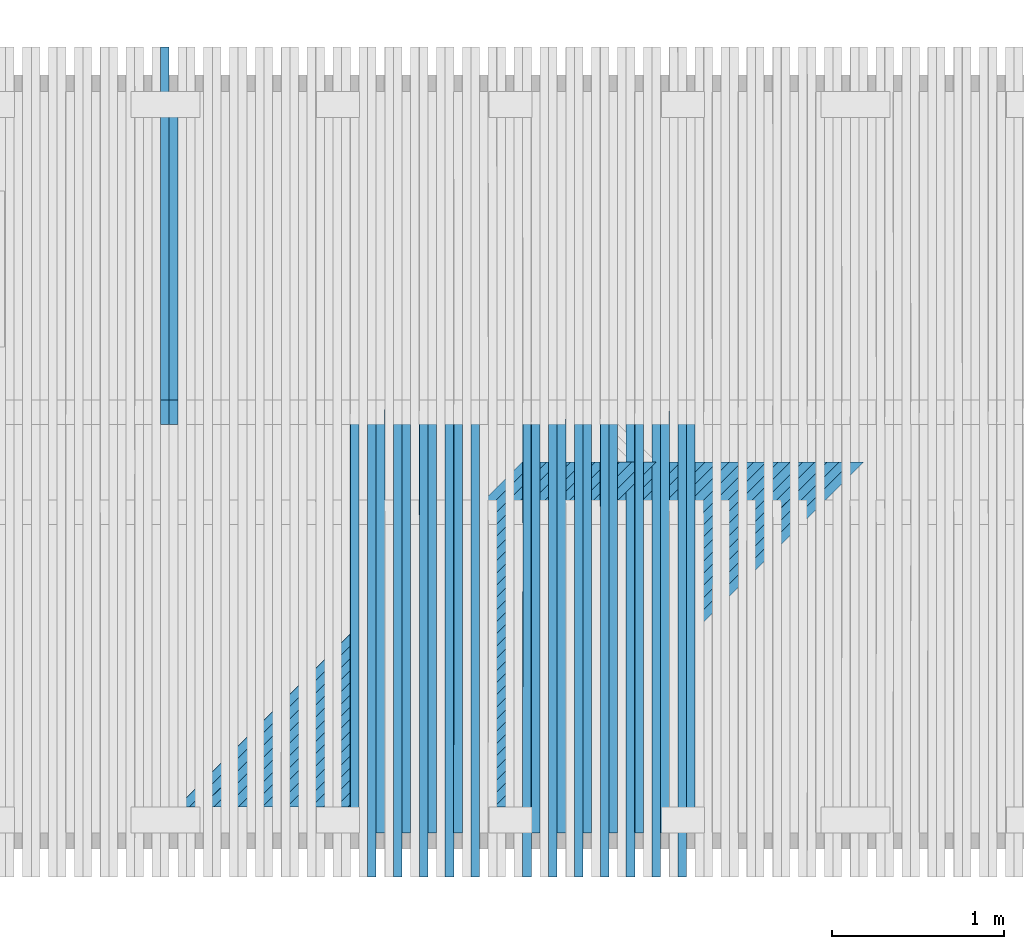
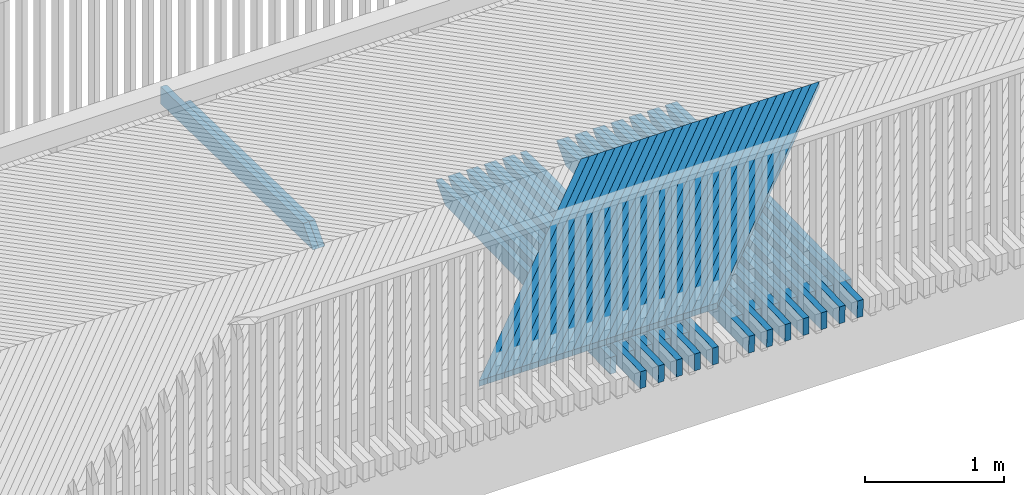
# One storey, part 31 of 47: 54 beams.
"""IFC2X3 building model written with IfcOpenShell, lengths in millimetres."""

from ifc_helpers import new_model, si_unit, frame, origin_with_axes, place, context, subcontext, project, spatial, faceted_brep, material, type_object, element, save


model = new_model("IFC2X3")

# Units and contexts
model_context = context("Model", 3, precision=1e-05, world=origin_with_axes())
body_context = subcontext(model_context, "Body", "Model", "MODEL_VIEW")
ifc_project = project(units=[si_unit("LENGTHUNIT", "METRE", prefix="MILLI"), si_unit("AREAUNIT", "SQUARE_METRE"), si_unit("VOLUMEUNIT", "CUBIC_METRE"), si_unit("MASSUNIT", "GRAM", prefix="KILO"), si_unit("TIMEUNIT", "SECOND"), si_unit("PLANEANGLEUNIT", "RADIAN"), si_unit("SOLIDANGLEUNIT", "STERADIAN"), si_unit("THERMODYNAMICTEMPERATUREUNIT", "DEGREE_CELSIUS"), si_unit("LUMINOUSINTENSITYUNIT", "LUMEN")], contexts=[model_context])

# Site, building, storey
site_placement = place(None, origin_with_axes())
site = spatial("IfcSite", under=ifc_project, at=site_placement, Name="Undefined", CompositionType="ELEMENT")
building_placement = place(site_placement, origin_with_axes())
building = spatial("IfcBuilding", under=site, at=building_placement, Name="Undefined", CompositionType="ELEMENT")
storey_placement = place(building_placement, origin_with_axes())
storey = spatial("IfcBuildingStorey", under=building, at=storey_placement, Name="Undefined", CompositionType="ELEMENT", Elevation=0.0)

# Beams
ifc_material = material(Name="TIMBER/Timber_Undefined")
beam_type_1 = type_object("IfcBeamType", Name="150*50", PredefinedType="NOTDEFINED")
beam_1_placement = place(storey_placement, frame((12050.5466206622, 60216.5046076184, 3079.51987287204), z_axis=(0.00672964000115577, -0.019996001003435, 0.99977741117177), x_axis=(0.000134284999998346, 0.999800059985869, 0.0199955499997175)))
element("IfcBeam", 1, at=beam_1_placement, inside=storey, type_object=beam_type_1, material=ifc_material, Name="BEAM", ObjectType="150*50", context=body_context, shape_type="Brep", body=[
    faceted_brep([(6.18456397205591e-09, -24.9999999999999, -75.0000000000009), (-6.1918399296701e-09, -24.9999999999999, 74.9999999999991), (-6.19911588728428e-09, 25.0, 75.0), (6.18456397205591e-09, 24.9999999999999, -75.0), (2375.00494220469, 24.9999999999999, -75.0000000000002), (2375.00494218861, -25.0, -75.0), (2510.59248711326, -25.0, 60.5875455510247), (2150.42518973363, -25.0, 75.0000000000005), (2150.42518840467, 25.0, 74.9999999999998), (2510.59248707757, 25.0, 60.5875454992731)], [[[0, 1, 2, 3]], [[0, 3, 4, 5]], [[1, 0, 5, 6, 7]], [[2, 1, 7, 8]], [[4, 3, 2, 8, 9]], [[5, 4, 9, 6]], [[8, 7, 6, 9]]]),
])
beam_2_placement = place(storey_placement, frame((12000.608483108, 59958.5561921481, 3074.69475377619), z_axis=(0.00664728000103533, -0.0199960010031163, 0.999777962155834), x_axis=(0.000132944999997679, 0.999800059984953, 0.019995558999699)))
element("IfcBeam", 2, at=beam_2_placement, inside=storey, type_object=beam_type_1, material=ifc_material, Name="BEAM", ObjectType="150*50", context=body_context, shape_type="Brep", body=[
    faceted_brep([(6.18456397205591e-09, -24.9999999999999, -75.0000000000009), (-6.1918399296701e-09, -24.9999999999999, 74.9999999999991), (-6.19911588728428e-09, 25.0, 75.0), (6.18456397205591e-09, 24.9999999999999, -75.0), (2633.00494983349, 25.0000000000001, -75.0000000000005), (2633.00495050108, -24.9999999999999, -75.0000000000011), (2768.59248707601, -25.0, 60.5875366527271), (2408.42499905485, -25.0, 74.9999999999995), (2408.42501428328, 25.0000000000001, 74.9999999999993), (2768.5924870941, 25.0, 60.5875375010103)], [[[0, 1, 2, 3]], [[0, 3, 4, 5]], [[1, 0, 5, 6, 7]], [[2, 1, 7, 8]], [[4, 3, 2, 8, 9]], [[5, 4, 9, 6]], [[8, 7, 6, 9]]]),
])
beam_3_placement = place(storey_placement, frame((11900.5198427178, 60216.5046076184, 3080.51070701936), z_axis=(0.00648046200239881, -0.0199960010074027, 0.999779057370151), x_axis=(0.000129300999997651, 0.999800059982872, 0.0199955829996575)))
element("IfcBeam", 3, at=beam_3_placement, inside=storey, type_object=beam_type_1, material=ifc_material, Name="BEAM", ObjectType="150*50", context=body_context, shape_type="Brep", body=[
    faceted_brep([(6.18456397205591e-09, -24.9999999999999, -75.0000000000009), (-6.1918399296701e-09, -24.9999999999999, 74.9999999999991), (-6.19911588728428e-09, 25.0, 75.0), (6.18456397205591e-09, 24.9999999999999, -75.0), (2375.00494220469, 24.9999999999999, -75.0000000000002), (2375.00494218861, -25.0, -75.0), (2510.59248711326, -25.0, 60.5875455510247), (2150.42518973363, -25.0, 75.0000000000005), (2150.42518840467, 25.0, 74.9999999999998), (2510.59248707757, 25.0, 60.5875454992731)], [[[0, 1, 2, 3]], [[0, 3, 4, 5]], [[1, 0, 5, 6, 7]], [[2, 1, 7, 8]], [[4, 3, 2, 8, 9]], [[5, 4, 9, 6]], [[8, 7, 6, 9]]]),
])
beam_4_placement = place(storey_placement, frame((11850.5829092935, 59958.5561921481, 3075.67314184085), z_axis=(0.00639810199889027, -0.0199960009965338, 0.999779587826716), x_axis=(0.000127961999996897, 0.999800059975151, 0.019995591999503)))
element("IfcBeam", 4, at=beam_4_placement, inside=storey, type_object=beam_type_1, material=ifc_material, Name="BEAM", ObjectType="150*50", context=body_context, shape_type="Brep", body=[
    faceted_brep([(6.18456397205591e-09, -24.9999999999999, -75.0000000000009), (-6.1918399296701e-09, -24.9999999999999, 74.9999999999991), (-6.19911588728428e-09, 25.0, 75.0), (6.18456397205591e-09, 24.9999999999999, -75.0), (2633.00494983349, 25.0000000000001, -75.0000000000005), (2633.00495050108, -24.9999999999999, -75.0000000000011), (2768.59248707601, -25.0, 60.5875366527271), (2408.42499905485, -25.0, 74.9999999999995), (2408.42501428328, 25.0000000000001, 74.9999999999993), (2768.5924870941, 25.0, 60.5875375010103)], [[[0, 1, 2, 3]], [[0, 3, 4, 5]], [[1, 0, 5, 6, 7]], [[2, 1, 7, 8]], [[4, 3, 2, 8, 9]], [[5, 4, 9, 6]], [[8, 7, 6, 9]]]),
])
beam_5_placement = place(storey_placement, frame((11750.4928224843, 60216.5046076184, 3081.46414950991), z_axis=(0.00623128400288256, -0.0199960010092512, 0.999780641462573), x_axis=(0.000124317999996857, 0.999800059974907, 0.0199956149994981)))
element("IfcBeam", 5, at=beam_5_placement, inside=storey, type_object=beam_type_1, material=ifc_material, Name="BEAM", ObjectType="150*50", context=body_context, shape_type="Brep", body=[
    faceted_brep([(6.18456397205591e-09, -24.9999999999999, -75.0000000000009), (-6.1918399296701e-09, -24.9999999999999, 74.9999999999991), (-6.19911588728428e-09, 25.0, 75.0), (6.18456397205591e-09, 24.9999999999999, -75.0), (2375.00494220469, 24.9999999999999, -75.0000000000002), (2375.00494218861, -25.0, -75.0), (2510.59248711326, -25.0, 60.5875455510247), (2150.42518973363, -25.0, 75.0000000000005), (2150.42518840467, 25.0, 74.9999999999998), (2510.59248707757, 25.0, 60.5875454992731)], [[[0, 1, 2, 3]], [[0, 3, 4, 5]], [[1, 0, 5, 6, 7]], [[2, 1, 7, 8]], [[4, 3, 2, 8, 9]], [[5, 4, 9, 6]], [[8, 7, 6, 9]]]),
])
beam_6_placement = place(storey_placement, frame((11700.557096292, 59958.5561921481, 3076.61413854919), z_axis=(0.00614892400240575, -0.0199960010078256, 0.999781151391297), x_axis=(0.00012297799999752, 0.999800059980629, 0.0199956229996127)))
element("IfcBeam", 6, at=beam_6_placement, inside=storey, type_object=beam_type_1, material=ifc_material, Name="BEAM", ObjectType="150*50", context=body_context, shape_type="Brep", body=[
    faceted_brep([(6.18456397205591e-09, -24.9999999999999, -75.0000000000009), (-6.1918399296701e-09, -24.9999999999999, 74.9999999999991), (-6.19911588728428e-09, 25.0, 75.0), (6.18456397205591e-09, 24.9999999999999, -75.0), (2633.00494983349, 25.0000000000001, -75.0000000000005), (2633.00495050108, -24.9999999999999, -75.0000000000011), (2768.59248707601, -25.0, 60.5875366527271), (2408.42499905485, -25.0, 74.9999999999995), (2408.42501428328, 25.0000000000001, 74.9999999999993), (2768.5924870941, 25.0, 60.5875375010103)], [[[0, 1, 2, 3]], [[0, 3, 4, 5]], [[1, 0, 5, 6, 7]], [[2, 1, 7, 8]], [[4, 3, 2, 8, 9]], [[5, 4, 9, 6]], [[8, 7, 6, 9]]]),
])
beam_7_placement = place(storey_placement, frame((11600.4655692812, 60216.5046076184, 3082.38020028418), z_axis=(0.005982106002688, -0.0199960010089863, 0.999782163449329), x_axis=(0.000119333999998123, 0.999800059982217, 0.0199956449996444)))
element("IfcBeam", 7, at=beam_7_placement, inside=storey, type_object=beam_type_1, material=ifc_material, Name="BEAM", ObjectType="150*50", context=body_context, shape_type="Brep", body=[
    faceted_brep([(6.18456397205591e-09, -24.9999999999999, -75.0000000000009), (-6.1918399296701e-09, -24.9999999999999, 74.9999999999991), (-6.19911588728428e-09, 25.0, 75.0), (6.18456397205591e-09, 24.9999999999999, -75.0), (2375.00494220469, 24.9999999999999, -75.0000000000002), (2375.00494218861, -25.0, -75.0), (2510.59248711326, -25.0, 60.5875455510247), (2150.42518973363, -25.0, 75.0000000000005), (2150.42518840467, 25.0, 74.9999999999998), (2510.59248707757, 25.0, 60.5875454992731)], [[[0, 1, 2, 3]], [[0, 3, 4, 5]], [[1, 0, 5, 6, 7]], [[2, 1, 7, 8]], [[4, 3, 2, 8, 9]], [[5, 4, 9, 6]], [[8, 7, 6, 9]]]),
])
beam_8_placement = place(storey_placement, frame((11550.5310534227, 59958.5561921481, 3077.51774384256), z_axis=(0.00589974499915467, -0.0199960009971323, 0.999782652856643), x_axis=(0.000117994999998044, 0.999800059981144, 0.0199956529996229)))
element("IfcBeam", 8, at=beam_8_placement, inside=storey, type_object=beam_type_1, material=ifc_material, Name="BEAM", ObjectType="150*50", context=body_context, shape_type="Brep", body=[
    faceted_brep([(6.18456397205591e-09, -24.9999999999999, -75.0000000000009), (-6.1918399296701e-09, -24.9999999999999, 74.9999999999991), (-6.19911588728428e-09, 25.0, 75.0), (6.18456397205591e-09, 24.9999999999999, -75.0), (2633.00494983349, 25.0000000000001, -75.0000000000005), (2633.00495050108, -24.9999999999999, -75.0000000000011), (2768.59248707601, -25.0, 60.5875366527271), (2408.42499905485, -25.0, 74.9999999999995), (2408.42501428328, 25.0000000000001, 74.9999999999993), (2768.5924870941, 25.0, 60.5875375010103)], [[[0, 1, 2, 3]], [[0, 3, 4, 5]], [[1, 0, 5, 6, 7]], [[2, 1, 7, 8]], [[4, 3, 2, 8, 9]], [[5, 4, 9, 6]], [[8, 7, 6, 9]]]),
])
beam_9_placement = place(storey_placement, frame((11450.4380924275, 60216.5046076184, 3083.25885928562), z_axis=(0.00573292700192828, -0.0199960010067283, 0.999783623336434), x_axis=(0.000114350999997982, 0.999800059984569, 0.0199956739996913)))
element("IfcBeam", 9, at=beam_9_placement, inside=storey, type_object=beam_type_1, material=ifc_material, Name="BEAM", ObjectType="150*50", context=body_context, shape_type="Brep", body=[
    faceted_brep([(6.18456397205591e-09, -24.9999999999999, -75.0000000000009), (-6.1918399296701e-09, -24.9999999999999, 74.9999999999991), (-6.19911588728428e-09, 25.0, 75.0), (6.18456397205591e-09, 24.9999999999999, -75.0), (2375.00494220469, 24.9999999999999, -75.0000000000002), (2375.00494218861, -25.0, -75.0), (2510.59248711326, -25.0, 60.5875455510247), (2150.42518973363, -25.0, 75.0000000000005), (2150.42518840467, 25.0, 74.9999999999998), (2510.59248707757, 25.0, 60.5875454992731)], [[[0, 1, 2, 3]], [[0, 3, 4, 5]], [[1, 0, 5, 6, 7]], [[2, 1, 7, 8]], [[4, 3, 2, 8, 9]], [[5, 4, 9, 6]], [[8, 7, 6, 9]]]),
])
beam_10_placement = place(storey_placement, frame((11400.5047900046, 59958.5561921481, 3078.38395766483), z_axis=(0.00565056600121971, -0.0199960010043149, 0.999784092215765), x_axis=(0.00011301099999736, 0.999800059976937, 0.0199956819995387)))
element("IfcBeam", 10, at=beam_10_placement, inside=storey, type_object=beam_type_1, material=ifc_material, Name="BEAM", ObjectType="150*50", context=body_context, shape_type="Brep", body=[
    faceted_brep([(6.18456397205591e-09, -24.9999999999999, -75.0000000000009), (-6.1918399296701e-09, -24.9999999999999, 74.9999999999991), (-6.19911588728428e-09, 25.0, 75.0), (6.18456397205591e-09, 24.9999999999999, -75.0), (2633.00494983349, 25.0000000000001, -75.0000000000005), (2633.00495050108, -24.9999999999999, -75.0000000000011), (2768.59248707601, -25.0, 60.5875366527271), (2408.42499905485, -25.0, 74.9999999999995), (2408.42501428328, 25.0000000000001, 74.9999999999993), (2768.5924870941, 25.0, 60.5875375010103)], [[[0, 1, 2, 3]], [[0, 3, 4, 5]], [[1, 0, 5, 6, 7]], [[2, 1, 7, 8]], [[4, 3, 2, 8, 9]], [[5, 4, 9, 6]], [[8, 7, 6, 9]]]),
])
beam_11_placement = place(storey_placement, frame((11300.4104012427, 60216.5046076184, 3084.10012645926), z_axis=(0.00548374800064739, -0.0199960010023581, 0.99978502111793), x_axis=(0.000109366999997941, 0.999800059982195, 0.019995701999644)))
element("IfcBeam", 11, at=beam_11_placement, inside=storey, type_object=beam_type_1, material=ifc_material, Name="BEAM", ObjectType="150*50", context=body_context, shape_type="Brep", body=[
    faceted_brep([(6.18456397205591e-09, -24.9999999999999, -75.0000000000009), (-6.1918399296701e-09, -24.9999999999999, 74.9999999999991), (-6.19911588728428e-09, 25.0, 75.0), (6.18456397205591e-09, 24.9999999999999, -75.0), (2375.00494220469, 24.9999999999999, -75.0000000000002), (2375.00494218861, -25.0, -75.0), (2510.59248711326, -25.0, 60.5875455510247), (2150.42518973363, -25.0, 75.0000000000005), (2150.42518840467, 25.0, 74.9999999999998), (2510.59248707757, 25.0, 60.5875454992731)], [[[0, 1, 2, 3]], [[0, 3, 4, 5]], [[1, 0, 5, 6, 7]], [[2, 1, 7, 8]], [[4, 3, 2, 8, 9]], [[5, 4, 9, 6]], [[8, 7, 6, 9]]]),
])
beam_12_placement = place(storey_placement, frame((11250.4783153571, 59958.5561921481, 3079.21277996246), z_axis=(0.00540138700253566, -0.019996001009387, 0.999785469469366), x_axis=(0.000108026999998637, 0.999800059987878, 0.0199957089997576)))
element("IfcBeam", 12, at=beam_12_placement, inside=storey, type_object=beam_type_1, material=ifc_material, Name="BEAM", ObjectType="150*50", context=body_context, shape_type="Brep", body=[
    faceted_brep([(6.18456397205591e-09, -24.9999999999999, -75.0000000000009), (-6.1918399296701e-09, -24.9999999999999, 74.9999999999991), (-6.19911588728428e-09, 25.0, 75.0), (6.18456397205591e-09, 24.9999999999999, -75.0), (2633.00494983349, 25.0000000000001, -75.0000000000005), (2633.00495050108, -24.9999999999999, -75.0000000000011), (2768.59248707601, -25.0, 60.5875366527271), (2408.42499905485, -25.0, 74.9999999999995), (2408.42501428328, 25.0000000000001, 74.9999999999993), (2768.5924870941, 25.0, 60.5875375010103)], [[[0, 1, 2, 3]], [[0, 3, 4, 5]], [[1, 0, 5, 6, 7]], [[2, 1, 7, 8]], [[4, 3, 2, 8, 9]], [[5, 4, 9, 6]], [[8, 7, 6, 9]]]),
])
beam_13_placement = place(storey_placement, frame((11150.382505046, 60216.5046076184, 3084.90400175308), z_axis=(0.00523456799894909, -0.0199960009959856, 0.999786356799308), x_axis=(0.000104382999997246, 0.999800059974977, 0.0199957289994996)))
element("IfcBeam", 13, at=beam_13_placement, inside=storey, type_object=beam_type_1, material=ifc_material, Name="BEAM", ObjectType="150*50", context=body_context, shape_type="Brep", body=[
    faceted_brep([(6.18456397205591e-09, -24.9999999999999, -75.0000000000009), (-6.1918399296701e-09, -24.9999999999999, 74.9999999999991), (-6.19911588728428e-09, 25.0, 75.0), (6.18456397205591e-09, 24.9999999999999, -75.0), (2375.00494220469, 24.9999999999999, -75.0000000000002), (2375.00494218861, -25.0, -75.0), (2510.59248711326, -25.0, 60.5875455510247), (2150.42518973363, -25.0, 75.0000000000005), (2150.42518840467, 25.0, 74.9999999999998), (2510.59248707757, 25.0, 60.5875454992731)], [[[0, 1, 2, 3]], [[0, 3, 4, 5]], [[1, 0, 5, 6, 7]], [[2, 1, 7, 8]], [[4, 3, 2, 8, 9]], [[5, 4, 9, 6]], [[8, 7, 6, 9]]]),
])
for number, where, z_axis, x_axis, name in (
    (14, (11100.4516387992, 59958.5561921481, 3080.00421068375), (0.00515220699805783, -0.019996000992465, 0.999786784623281), (0.000103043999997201, 0.99980005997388, 0.0199957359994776), "BEAM"),
    (15, (10800.3977172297, 59958.5561921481, 3081.47489720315), (0.00465384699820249, -0.019996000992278, 0.999789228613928), (9.30769999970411e-05, 0.999800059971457, 0.0199957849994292), "BEAM"),
):
    element("IfcBeam", number, at=place(storey_placement, frame(where, z_axis=z_axis, x_axis=x_axis)), inside=storey, type_object=beam_type_1, material=ifc_material, Name=name, ObjectType="150*50", context=body_context, shape_type="Brep", body=[
        faceted_brep([(6.18456397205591e-09, -24.9999999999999, -75.0000000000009), (-6.1918399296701e-09, -24.9999999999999, 74.9999999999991), (-6.19911588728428e-09, 25.0, 75.0), (6.18456397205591e-09, 24.9999999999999, -75.0), (2633.00494983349, 25.0000000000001, -75.0000000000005), (2633.00495050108, -24.9999999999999, -75.0000000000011), (2768.59248707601, -25.0, 60.5875366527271), (2408.42499905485, -25.0, 74.9999999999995), (2408.42501428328, 25.0000000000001, 74.9999999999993), (2768.5924870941, 25.0, 60.5875375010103)], [[[0, 1, 2, 3]], [[0, 3, 4, 5]], [[1, 0, 5, 6, 7]], [[2, 1, 7, 8]], [[4, 3, 2, 8, 9]], [[5, 4, 9, 6]], [[8, 7, 6, 9]]]),
    ])
beam_14_placement = place(storey_placement, frame((10700.2976795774, 60216.5046076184, 3087.09127586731), z_axis=(0.00448702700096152, -0.019996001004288, 0.99978999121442), x_axis=(8.94329999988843e-05, 0.999800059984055, 0.0199958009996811)))
element("IfcBeam", 16, at=beam_14_placement, inside=storey, type_object=beam_type_1, material=ifc_material, Name="BEAM", ObjectType="150*50", context=body_context, shape_type="Brep", body=[
    faceted_brep([(6.18456397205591e-09, -24.9999999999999, -75.0000000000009), (-6.1918399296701e-09, -24.9999999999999, 74.9999999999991), (-6.19911588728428e-09, 25.0, 75.0), (6.18456397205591e-09, 24.9999999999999, -75.0), (2375.00494220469, 24.9999999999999, -75.0000000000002), (2375.00494218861, -25.0, -75.0), (2510.59248711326, -25.0, 60.5875455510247), (2150.42518973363, -25.0, 75.0000000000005), (2150.42518840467, 25.0, 74.9999999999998), (2510.59248707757, 25.0, 60.5875454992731)], [[[0, 1, 2, 3]], [[0, 3, 4, 5]], [[1, 0, 5, 6, 7]], [[2, 1, 7, 8]], [[4, 3, 2, 8, 9]], [[5, 4, 9, 6]], [[8, 7, 6, 9]]]),
])
beam_15_placement = place(storey_placement, frame((10650.3704908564, 59958.5561921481, 3082.15415290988), z_axis=(0.00440466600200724, -0.0199960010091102, 0.999790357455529), x_axis=(8.80929999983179e-05, 0.999800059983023, 0.0199958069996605)))
element("IfcBeam", 17, at=beam_15_placement, inside=storey, type_object=beam_type_1, material=ifc_material, Name="BEAM", ObjectType="150*50", context=body_context, shape_type="Brep", body=[
    faceted_brep([(6.18456397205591e-09, -24.9999999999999, -75.0000000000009), (-6.1918399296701e-09, -24.9999999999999, 74.9999999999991), (-6.19911588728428e-09, 25.0, 75.0), (6.18456397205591e-09, 24.9999999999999, -75.0), (2633.00494983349, 25.0000000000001, -75.0000000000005), (2633.00495050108, -24.9999999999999, -75.0000000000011), (2768.59248707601, -25.0, 60.5875366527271), (2408.42499905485, -25.0, 74.9999999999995), (2408.42501428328, 25.0000000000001, 74.9999999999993), (2768.5924870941, 25.0, 60.5875375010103)], [[[0, 1, 2, 3]], [[0, 3, 4, 5]], [[1, 0, 5, 6, 7]], [[2, 1, 7, 8]], [[4, 3, 2, 8, 9]], [[5, 4, 9, 6]], [[8, 7, 6, 9]]]),
])
beam_16_placement = place(storey_placement, frame((10550.2690565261, 60216.5046076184, 3087.74558316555), z_axis=(0.00423784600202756, -0.0199960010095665, 0.999791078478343), x_axis=(8.44489999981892e-05, 0.999800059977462, 0.0199958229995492)))
element("IfcBeam", 18, at=beam_16_placement, inside=storey, type_object=beam_type_1, material=ifc_material, Name="BEAM", ObjectType="150*50", context=body_context, shape_type="Brep", body=[
    faceted_brep([(6.18456397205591e-09, -24.9999999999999, -75.0000000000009), (-6.1918399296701e-09, -24.9999999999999, 74.9999999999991), (-6.19911588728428e-09, 25.0, 75.0), (6.18456397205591e-09, 24.9999999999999, -75.0), (2375.00494220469, 24.9999999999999, -75.0000000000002), (2375.00494218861, -25.0, -75.0), (2510.59248711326, -25.0, 60.5875455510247), (2150.42518973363, -25.0, 75.0000000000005), (2150.42518840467, 25.0, 74.9999999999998), (2510.59248707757, 25.0, 60.5875454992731)], [[[0, 1, 2, 3]], [[0, 3, 4, 5]], [[1, 0, 5, 6, 7]], [[2, 1, 7, 8]], [[4, 3, 2, 8, 9]], [[5, 4, 9, 6]], [[8, 7, 6, 9]]]),
])
beam_17_placement = place(storey_placement, frame((10500.3430998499, 59958.5561921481, 3082.79601685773), z_axis=(0.00415548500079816, -0.0199960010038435, 0.999791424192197), x_axis=(8.3108999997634e-05, 0.999800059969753, 0.0199958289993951)))
element("IfcBeam", 19, at=beam_17_placement, inside=storey, type_object=beam_type_1, material=ifc_material, Name="BEAM", ObjectType="150*50", context=body_context, shape_type="Brep", body=[
    faceted_brep([(6.18456397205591e-09, -24.9999999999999, -75.0000000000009), (-6.1918399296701e-09, -24.9999999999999, 74.9999999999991), (-6.19911588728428e-09, 25.0, 75.0), (6.18456397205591e-09, 24.9999999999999, -75.0), (2633.00494983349, 25.0000000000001, -75.0000000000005), (2633.00495050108, -24.9999999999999, -75.0000000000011), (2768.59248707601, -25.0, 60.5875366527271), (2408.42499905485, -25.0, 74.9999999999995), (2408.42501428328, 25.0000000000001, 74.9999999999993), (2768.5924870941, 25.0, 60.5875375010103)], [[[0, 1, 2, 3]], [[0, 3, 4, 5]], [[1, 0, 5, 6, 7]], [[2, 1, 7, 8]], [[4, 3, 2, 8, 9]], [[5, 4, 9, 6]], [[8, 7, 6, 9]]]),
])
beam_18_placement = place(storey_placement, frame((10400.2402750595, 60216.5046076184, 3088.36249835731), z_axis=(0.00398866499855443, -0.0199960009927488, 0.999792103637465), x_axis=(7.94649999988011e-05, 0.999800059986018, 0.0199958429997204)))
element("IfcBeam", 20, at=beam_18_placement, inside=storey, type_object=beam_type_1, material=ifc_material, Name="BEAM", ObjectType="150*50", context=body_context, shape_type="Brep", body=[
    faceted_brep([(6.18456397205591e-09, -24.9999999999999, -75.0000000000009), (-6.1918399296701e-09, -24.9999999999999, 74.9999999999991), (-6.19911588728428e-09, 25.0, 75.0), (6.18456397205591e-09, 24.9999999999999, -75.0), (2375.00494220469, 24.9999999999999, -75.0000000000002), (2375.00494218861, -25.0, -75.0), (2510.59248711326, -25.0, 60.5875455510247), (2150.42518973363, -25.0, 75.0000000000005), (2150.42518840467, 25.0, 74.9999999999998), (2510.59248707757, 25.0, 60.5875454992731)], [[[0, 1, 2, 3]], [[0, 3, 4, 5]], [[1, 0, 5, 6, 7]], [[2, 1, 7, 8]], [[4, 3, 2, 8, 9]], [[5, 4, 9, 6]], [[8, 7, 6, 9]]]),
])
beam_19_placement = place(storey_placement, frame((10350.3155535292, 59958.5561921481, 3083.40048900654), z_axis=(0.00390630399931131, -0.0199960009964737, 0.99979242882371), x_axis=(7.81259999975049e-05, 0.999800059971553, 0.019995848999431)))
element("IfcBeam", 21, at=beam_19_placement, inside=storey, type_object=beam_type_1, material=ifc_material, Name="BEAM", ObjectType="150*50", context=body_context, shape_type="Brep", body=[
    faceted_brep([(6.18456397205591e-09, -24.9999999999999, -75.0000000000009), (-6.1918399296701e-09, -24.9999999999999, 74.9999999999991), (-6.19911588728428e-09, 25.0, 75.0), (6.18456397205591e-09, 24.9999999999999, -75.0), (2633.00494983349, 25.0000000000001, -75.0000000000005), (2633.00495050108, -24.9999999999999, -75.0000000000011), (2768.59248707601, -25.0, 60.5875366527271), (2408.42499905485, -25.0, 74.9999999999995), (2408.42501428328, 25.0000000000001, 74.9999999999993), (2768.5924870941, 25.0, 60.5875375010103)], [[[0, 1, 2, 3]], [[0, 3, 4, 5]], [[1, 0, 5, 6, 7]], [[2, 1, 7, 8]], [[4, 3, 2, 8, 9]], [[5, 4, 9, 6]], [[8, 7, 6, 9]]]),
])
beam_20_placement = place(storey_placement, frame((10250.2113444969, 60216.5046076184, 3088.94202140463), z_axis=(0.00373948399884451, -0.0199960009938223, 0.999793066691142), x_axis=(7.44819999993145e-05, 0.999800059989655, 0.019995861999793)))
element("IfcBeam", 22, at=beam_20_placement, inside=storey, type_object=beam_type_1, material=ifc_material, Name="BEAM", ObjectType="150*50", context=body_context, shape_type="Brep", body=[
    faceted_brep([(6.18456397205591e-09, -24.9999999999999, -75.0000000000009), (-6.1918399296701e-09, -24.9999999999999, 74.9999999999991), (-6.19911588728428e-09, 25.0, 75.0), (6.18456397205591e-09, 24.9999999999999, -75.0), (2375.00494220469, 24.9999999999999, -75.0000000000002), (2375.00494218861, -25.0, -75.0), (2510.59248711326, -25.0, 60.5875455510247), (2150.42518973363, -25.0, 75.0000000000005), (2150.42518840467, 25.0, 74.9999999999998), (2510.59248707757, 25.0, 60.5875454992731)], [[[0, 1, 2, 3]], [[0, 3, 4, 5]], [[1, 0, 5, 6, 7]], [[2, 1, 7, 8]], [[4, 3, 2, 8, 9]], [[5, 4, 9, 6]], [[8, 7, 6, 9]]]),
])
beam_21_placement = place(storey_placement, frame((10200.2878612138, 59958.5561921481, 3083.96756931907), z_axis=(0.00365712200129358, -0.0199960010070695, 0.999793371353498), x_axis=(7.31419999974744e-05, 0.999800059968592, 0.0199958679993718)))
element("IfcBeam", 23, at=beam_21_placement, inside=storey, type_object=beam_type_1, material=ifc_material, Name="BEAM", ObjectType="150*50", context=body_context, shape_type="Brep", body=[
    faceted_brep([(6.18456397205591e-09, -24.9999999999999, -75.0000000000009), (-6.1918399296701e-09, -24.9999999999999, 74.9999999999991), (-6.19911588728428e-09, 25.0, 75.0), (6.18456397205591e-09, 24.9999999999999, -75.0), (2633.00494983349, 25.0000000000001, -75.0000000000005), (2633.00495050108, -24.9999999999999, -75.0000000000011), (2768.59248707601, -25.0, 60.5875366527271), (2408.42499905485, -25.0, 74.9999999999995), (2408.4249624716, 24.9999999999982, 74.9999999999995), (2768.5924870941, 25.0, 60.5875375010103)], [[[0, 1, 2, 3]], [[0, 3, 4, 5]], [[1, 0, 5, 6, 7]], [[2, 1, 7, 8]], [[4, 3, 2, 8, 9]], [[5, 4, 9, 6]], [[8, 7, 6, 9]]]),
])
beam_22_placement = place(storey_placement, frame((10100.1822741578, 60216.5046076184, 3089.48415227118), z_axis=(0.00349030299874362, -0.0199960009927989, 0.99979396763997), x_axis=(6.94979999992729e-05, 0.999800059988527, 0.0199958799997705)))
element("IfcBeam", 24, at=beam_22_placement, inside=storey, type_object=beam_type_1, material=ifc_material, Name="BEAM", ObjectType="150*50", context=body_context, shape_type="Brep", body=[
    faceted_brep([(6.18456397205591e-09, -24.9999999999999, -75.0000000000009), (-6.1918399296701e-09, -24.9999999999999, 74.9999999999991), (-6.19911588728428e-09, 25.0, 75.0), (6.18456397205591e-09, 24.9999999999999, -75.0), (2375.00494220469, 24.9999999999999, -75.0000000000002), (2375.00494218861, -25.0, -75.0), (2510.59248711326, -25.0, 60.5875455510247), (2150.42518973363, -25.0, 75.0000000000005), (2150.42518840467, 25.0, 74.9999999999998), (2510.59248707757, 25.0, 60.5875454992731)], [[[0, 1, 2, 3]], [[0, 3, 4, 5]], [[1, 0, 5, 6, 7]], [[2, 1, 7, 8]], [[4, 3, 2, 8, 9]], [[5, 4, 9, 6]], [[8, 7, 6, 9]]]),
])
beam_23_placement = place(storey_placement, frame((9049.97565086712, 64513.4953923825, 3092.2320847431), z_axis=(0.00174602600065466, 0.0199960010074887, 0.999798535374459), x_axis=(3.4920999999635e-05, -0.999800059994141, 0.0199959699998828)))
element("IfcBeam", 25, at=beam_23_placement, inside=storey, type_object=beam_type_1, material=ifc_material, Name="BEAM", ObjectType="150*50", context=body_context, shape_type="Brep", body=[
    faceted_brep([(6.18456397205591e-09, -24.9999999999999, -75.0000000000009), (-6.1918399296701e-09, -24.9999999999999, 74.9999999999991), (-6.19911588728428e-09, 25.0, 75.0), (6.18456397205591e-09, 24.9999999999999, -75.0), (1789.96936586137, 25.0, 75.0000000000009), (1928.42646506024, 25.0, -75.0), (1928.4264649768, -24.9999999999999, -75.0), (1789.96936577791, -24.9999999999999, 75.0)], [[[0, 1, 2, 3]], [[3, 2, 4, 5]], [[0, 3, 5, 6]], [[1, 0, 6, 7]], [[2, 1, 7, 4]], [[7, 6, 5, 4]]]),
])
beam_24_placement = place(storey_placement, frame((9000.06218519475, 64771.4438078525, 3087.15810197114), z_axis=(0.00166366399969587, 0.0199960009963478, 0.999798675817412), x_axis=(3.32729999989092e-05, -0.999800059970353, 0.019995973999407)))
element("IfcBeam", 26, at=beam_24_placement, inside=storey, type_object=beam_type_1, material=ifc_material, Name="BEAM", ObjectType="150*50", context=body_context, shape_type="Brep", body=[
    faceted_brep([(6.18456397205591e-09, -24.9999999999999, -75.0000000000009), (-6.1918399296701e-09, -24.9999999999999, 74.9999999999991), (-6.19911588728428e-09, 25.0, 75.0), (6.18456397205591e-09, 24.9999999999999, -75.0), (2047.96935975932, 25.0, 75.0), (2186.42645864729, 25.0, -75.0), (2186.42645915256, -25.0000000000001, -75.0), (2047.96936034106, -25.0000000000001, 75.0)], [[[0, 1, 2, 3]], [[3, 2, 4, 5]], [[0, 3, 5, 6]], [[1, 0, 6, 7]], [[2, 1, 7, 4]], [[7, 6, 5, 4]]]),
])
beam_type_2 = type_object("IfcBeamType", Name="50*50", PredefinedType="NOTDEFINED")
for number, where, z_axis, x_axis, name in (
    (27, (13015.7206567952, 62364.5001003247, 3215.23061871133), (0.706982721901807, -0.706981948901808, -0.0187604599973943), (-0.707200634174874, -0.706948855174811, -0.00951731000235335), "BEAM"),
    (28, (12944.9988427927, 62364.5001003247, 3215.81561504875), (0.706984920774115, -0.706981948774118, -0.0186774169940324), (-0.707199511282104, -0.706948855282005, -0.0096003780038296), "BEAM"),
    (29, (12874.2769605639, 62364.5001003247, 3216.39230435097), (0.70698710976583, -0.706981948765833, -0.0185943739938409), (-0.707198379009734, -0.706948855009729, -0.00968344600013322), "BEAM"),
    (30, (12803.5550110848, 62364.5001003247, 3216.96068661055), (0.706989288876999, -0.706981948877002, -0.0185113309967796), (-0.707197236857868, -0.706948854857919, -0.00976651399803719), "BEAM"),
    (31, (12732.832995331, 62364.5001003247, 3217.52076181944), (0.706991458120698, -0.706981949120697, -0.0184282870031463), (-0.707196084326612, -0.706948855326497, -0.00984958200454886), "BEAM"),
    (32, (12662.1109142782, 62364.5001003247, 3218.07252996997), (0.706993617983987, -0.706981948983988, -0.0183452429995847), (-0.707194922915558, -0.706948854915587, -0.00993264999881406), "BEAM"),
    (33, (12591.3887689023, 62364.5001003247, 3218.61599105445), (0.706995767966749, -0.706981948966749, -0.0182621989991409), (-0.707193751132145, -0.706948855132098, -0.0100157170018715), "BEAM"),
    (34, (12520.666560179, 62364.5001003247, 3219.15114506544), (0.706997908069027, -0.706981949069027, -0.0181791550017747), (-0.707192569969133, -0.706948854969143, -0.0100987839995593), "BEAM"),
    (35, (12449.944289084, 62364.5001003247, 3219.67799199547), (0.707000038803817, -0.706981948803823, -0.0180961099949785), (-0.707191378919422, -0.706948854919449, -0.0101818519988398), "BEAM"),
    (36, (12379.2219565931, 62364.5001003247, 3220.19653183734), (0.70700215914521, -0.706981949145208, -0.0180130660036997), (-0.707190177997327, -0.706948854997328, -0.0102649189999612), "BEAM"),
    (37, (12308.499563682, 62364.5001003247, 3220.70676458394), (0.707004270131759, -0.706981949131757, -0.0179300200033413), (-0.707188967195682, -0.706948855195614, -0.0103479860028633), "BEAM"),
    (38, (12237.7771113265, 62364.5001003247, 3221.20869022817), (0.707006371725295, -0.706981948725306, -0.0178469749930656), (-0.707187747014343, -0.706948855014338, -0.0104310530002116), "BEAM"),
    (39, (12167.0546005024, 62364.5001003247, 3221.70230876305), (0.707008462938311, -0.706981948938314, -0.0177639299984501), (-0.70718651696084, -0.706948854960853, -0.0105141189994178), "BEAM"),
    (40, (12096.3320321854, 62364.5001003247, 3222.18762018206), (0.707010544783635, -0.706981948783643, -0.017680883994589), (-0.707185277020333, -0.706948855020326, -0.0105971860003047), "BEAM"),
    (41, (12025.6094073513, 62364.5001003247, 3222.66462447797), (0.70701261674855, -0.706981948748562, -0.0175978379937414), (-0.707184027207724, -0.706948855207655, -0.0106802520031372), "BEAM"),
    (42, (11954.8867269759, 62364.5001003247, 3223.13332164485), (0.707014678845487, -0.706981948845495, -0.0175147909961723), (-0.707182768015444, -0.706948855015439, -0.0107633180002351), "BEAM"),
    (43, (11884.1639920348, 62364.5001003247, 3223.59371167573), (0.707016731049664, -0.706981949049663, -0.0174317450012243), (-0.707181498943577, -0.706948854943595, -0.0108463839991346), "BEAM"),
    (44, (11813.441203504, 62364.5001003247, 3224.04579456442), (0.707018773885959, -0.706981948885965, -0.0173486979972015), (-0.707180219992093, -0.706948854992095, -0.0109294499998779), "BEAM"),
    (45, (11742.718362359, 62364.5001003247, 3224.48957030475), (0.707020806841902, -0.706981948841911, -0.0172656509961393), (-0.707178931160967, -0.706948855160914, -0.0110125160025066), "BEAM"),
    (46, (11671.9954695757, 62364.5001003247, 3224.92503889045), (0.707022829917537, -0.706981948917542, -0.017182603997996), (-0.707177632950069, -0.706948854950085, -0.0110955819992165), "BEAM"),
    (47, (11601.2725261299, 62364.5001003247, 3225.35220031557), (0.707024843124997, -0.706981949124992, -0.0170995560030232), (-0.707176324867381, -0.706948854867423, -0.0111786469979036), "BEAM"),
    (48, (11530.5495329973, 62364.5001003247, 3225.7710545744), (0.707026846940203, -0.706981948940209, -0.0170165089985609), (-0.707175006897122, -0.706948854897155, -0.0112617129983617), "BEAM"),
    (49, (11459.8264911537, 62364.5001003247, 3226.18160166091), (0.7070288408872, -0.706981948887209, -0.0169334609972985), (-0.707173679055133, -0.706948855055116, -0.0113447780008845), "BEAM"),
    (50, (11389.1034015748, 62364.5001003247, 3226.58384156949), (0.70703082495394, -0.706981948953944, -0.0168504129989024), (-0.70717234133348, -0.706948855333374, -0.011427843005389), "BEAM"),
    (51, (11318.3802652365, 62364.5001003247, 3226.97777429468), (0.707032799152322, -0.706981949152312, -0.0167673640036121), (-0.707170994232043, -0.70694885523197, -0.0115109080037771), "BEAM"),
    (52, (11247.6570831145, 62364.5001003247, 3227.363399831), (0.707034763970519, -0.706981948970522, -0.0166843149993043), (-0.707169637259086, -0.706948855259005, -0.0115939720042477), "BEAM"),
    (53, (11176.9338561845, 62364.5001003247, 3227.7407181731), (0.707036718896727, -0.706981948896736, -0.0166012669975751), (-0.707168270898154, -0.706948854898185, -0.0116770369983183), "BEAM"),
    (54, (11106.2105854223, 62364.5001003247, 3228.10972931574), (0.707038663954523, -0.706981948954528, -0.0165182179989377), (-0.70716689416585, -0.706948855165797, -0.011760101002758), "BEAM"),
):
    element("IfcBeam", number, at=place(storey_placement, frame(where, z_axis=z_axis, x_axis=x_axis)), inside=storey, type_object=beam_type_2, material=ifc_material, Name=name, ObjectType="50*50", context=body_context, shape_type="Brep", body=[
        faceted_brep([(24.8942457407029, 24.9999999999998, -24.9999999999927), (-25.0086637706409, 24.9999999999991, 25.0), (2804.3406783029, 24.9999999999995, 25.0000000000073), (2854.34301907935, 24.9999999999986, -24.9999999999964), (-26.4222658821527, -25.0000000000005, 25.0000000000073), (2802.92643296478, -25.0000000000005, 25.0000000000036), (23.4806436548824, -25.0000000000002, -25.0), (2852.92877373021, -25.0000000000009, -24.9999999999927)], [[[0, 1, 2, 3]], [[1, 4, 5, 2]], [[4, 6, 7, 5]], [[6, 0, 3, 7]], [[5, 7, 3, 2]], [[6, 4, 1, 0]]]),
    ])

save(model, "model.ifc")
